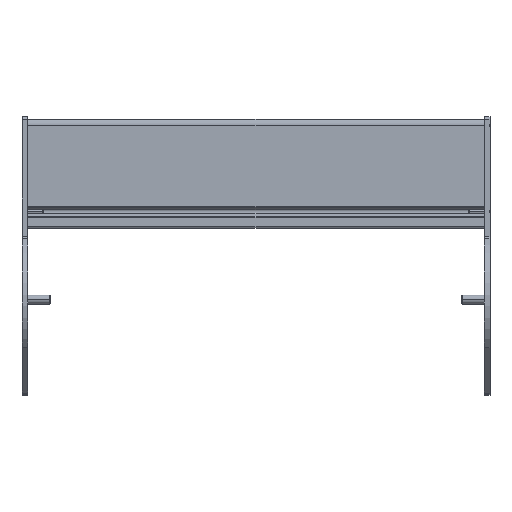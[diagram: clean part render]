
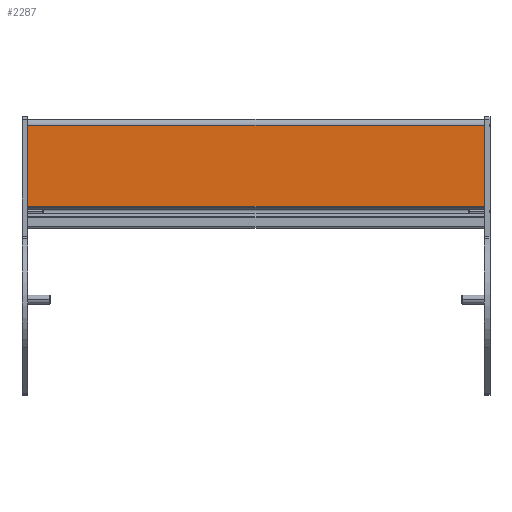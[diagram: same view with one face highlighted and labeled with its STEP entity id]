
A CAD part, top view. The second image highlights one B-rep face of the part: STEP entity #2287.
In plain terms, the highlighted planar face has unit normal (0, 0, 1) as drawn and (1, 0, 0) by its records, which use the part's own axes.
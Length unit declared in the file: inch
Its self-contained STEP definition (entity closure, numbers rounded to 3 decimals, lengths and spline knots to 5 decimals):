
#197=DIRECTION('',(0.,1.,0.));
#198=VECTOR('',#197,1.81445);
#199=CARTESIAN_POINT('',(0.683,-0.84545,-5.118));
#200=LINE('',#199,#198);
#303=DIRECTION('',(0.,1.,0.));
#304=VECTOR('',#303,1.81445);
#305=CARTESIAN_POINT('',(0.683,-0.84545,5.118));
#306=LINE('',#305,#304);
#652=DIRECTION('',(0.,0.,1.));
#653=VECTOR('',#652,10.236);
#654=CARTESIAN_POINT('',(0.683,0.969,-5.118));
#655=LINE('',#654,#653);
#665=DIRECTION('',(0.,0.,-1.));
#666=VECTOR('',#665,10.236);
#667=CARTESIAN_POINT('',(0.683,-0.84545,5.118));
#668=LINE('',#667,#666);
#1268=CARTESIAN_POINT('',(0.683,-0.84545,-5.118));
#1269=CARTESIAN_POINT('',(0.683,0.969,-5.118));
#1270=VERTEX_POINT('',#1268);
#1271=VERTEX_POINT('',#1269);
#1272=CARTESIAN_POINT('',(0.683,-0.84545,5.118));
#1273=CARTESIAN_POINT('',(0.683,0.969,5.118));
#1274=VERTEX_POINT('',#1272);
#1275=VERTEX_POINT('',#1273);
#2275=CARTESIAN_POINT('',(0.683,-0.86334,-5.118));
#2276=DIRECTION('',(1.,0.,0.));
#2277=DIRECTION('',(0.,1.,0.));
#2278=AXIS2_PLACEMENT_3D('',#2275,#2276,#2277);
#2279=PLANE('',#2278);
#2280=ORIENTED_EDGE('',*,*,#1633,.F.);
#2282=ORIENTED_EDGE('',*,*,#2281,.F.);
#2283=ORIENTED_EDGE('',*,*,#1736,.T.);
#2284=ORIENTED_EDGE('',*,*,#2268,.F.);
#2285=EDGE_LOOP('',(#2280,#2282,#2283,#2284));
#2286=FACE_OUTER_BOUND('',#2285,.F.);
#1633=EDGE_CURVE('',#1270,#1271,#200,.T.);
#1736=EDGE_CURVE('',#1274,#1275,#306,.T.);
#2268=EDGE_CURVE('',#1271,#1275,#655,.T.);
#2281=EDGE_CURVE('',#1274,#1270,#668,.T.);
#2287=ADVANCED_FACE('',(#2286),#2279,.T.);
